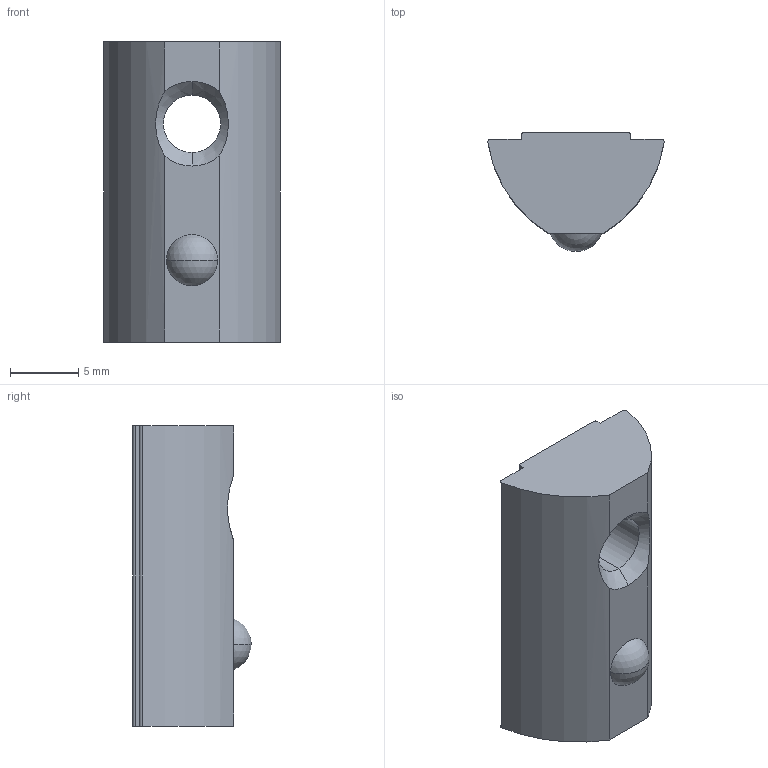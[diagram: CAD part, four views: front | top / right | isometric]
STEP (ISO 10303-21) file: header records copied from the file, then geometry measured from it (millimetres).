
FILE_DESCRIPTION (( 'STEP AP203' ), '1' );
FILE_NAME ('LIMA-LHNR5-84040.STEP', '2018-03-15T12:18:11', ( '' ), ( '' ), 'SwSTEP 2.0', 'SolidWorks 2013', '' );
FILE_SCHEMA (( 'CONFIG_CONTROL_DESIGN' ));
Length unit declared in the file: millimetre
Products named in the file (1): LIMA-LHNR5-84040
Bounding box: 12.94 x 8.7 x 22 mm (x, y, z)
Volume: 1504.3 mm3; surface area: 971.2 mm2
Topology: 1 solids, 1 shells, 24 faces, 63 edges, 41 vertices
Faces by surface type: cylinder 9, plane 9, cone 4, sphere 2
Entity records: 858 total; most frequent: CARTESIAN_POINT 159, DIRECTION 139, ORIENTED_EDGE 126, EDGE_CURVE 63, AXIS2_PLACEMENT_3D 53, VERTEX_POINT 41, LINE 33, VECTOR 33
